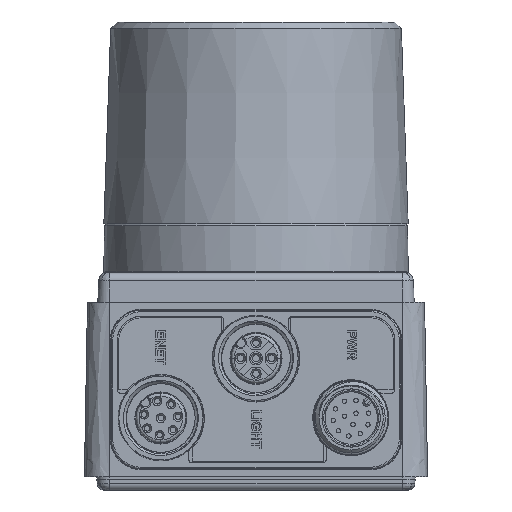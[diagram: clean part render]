
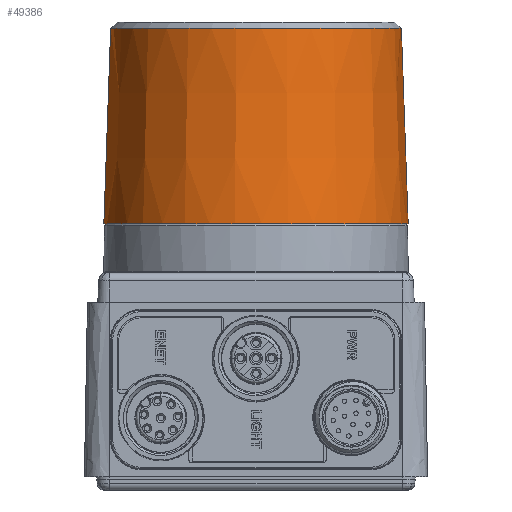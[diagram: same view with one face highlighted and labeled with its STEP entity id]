
A CAD part, front view. The second image highlights one B-rep face of the part: STEP entity #49386.
In plain terms, the highlighted conical face has half-angle 2 degrees and reference radius 24.4 mm.
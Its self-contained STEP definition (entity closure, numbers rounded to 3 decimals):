
#2859 = LINE ( 'NONE', #9899, #2867 ) ;
#2861 = LINE ( 'NONE', #9918, #2871 ) ;
#2867 = VECTOR ( 'NONE', #9911, 1000. ) ;
#2871 = VECTOR ( 'NONE', #9909, 1000. ) ;
#9899 = CARTESIAN_POINT ( 'NONE',  ( 24.383, 10.945, 40.6 ) ) ;
#9909 = DIRECTION ( 'NONE',  ( -0.035, -0.001, -0.999 ) ) ;
#9911 = DIRECTION ( 'NONE',  ( 0.035, 0.001, -0.999 ) ) ;
#9918 = CARTESIAN_POINT ( 'NONE',  ( -24.383, 9.144, 40.6 ) ) ;
#9989 = CARTESIAN_POINT ( 'NONE',  ( 0., 10.045, 71.901 ) ) ;
#9991 = DIRECTION ( 'NONE',  ( 0., 0., -1. ) ) ;
#9993 = DIRECTION ( 'NONE',  ( -0.999, -0.037, 0. ) ) ;
#9997 = CARTESIAN_POINT ( 'NONE',  ( 0., 10.045, 40.6 ) ) ;
#9999 = DIRECTION ( 'NONE',  ( 0., 0., -1. ) ) ;
#10001 = DIRECTION ( 'NONE',  ( -0.999, -0.037, 0. ) ) ;
#11752 = CIRCLE ( 'NONE', #90294, 23.307 ) ;
#11754 = CIRCLE ( 'NONE', #90297, 24.4 ) ;
#37680 = CARTESIAN_POINT ( 'NONE',  ( -23.291, 9.185, 71.901 ) ) ;
#41751 = CARTESIAN_POINT ( 'NONE',  ( -24.383, 9.144, 40.6 ) ) ;
#44353 = CARTESIAN_POINT ( 'NONE',  ( 23.291, 10.905, 71.901 ) ) ;
#45681 = CARTESIAN_POINT ( 'NONE',  ( 24.383, 10.945, 40.6 ) ) ;
#49386 = ADVANCED_FACE ( 'NONE', ( #100442 ), #100446, .T. ) ;
#52319 = DIRECTION ( 'NONE',  ( -0.999, -0.037, 0. ) ) ;
#52564 = DIRECTION ( 'NONE',  ( 0., 0., -1. ) ) ;
#52573 = CARTESIAN_POINT ( 'NONE',  ( 0., 10.045, 40.6 ) ) ;
#69632 = EDGE_CURVE ( 'NONE', #79392, #80266, #2859, .T. ) ;
#69634 = EDGE_CURVE ( 'NONE', #78147, #78600, #2861, .T. ) ;
#69653 = EDGE_CURVE ( 'NONE', #79392, #78147, #11752, .T. ) ;
#69654 = EDGE_CURVE ( 'NONE', #80266, #78600, #11754, .T. ) ;
#72112 = ORIENTED_EDGE ( 'NONE', *, *, #69632, .F. ) ;
#72113 = ORIENTED_EDGE ( 'NONE', *, *, #69653, .T. ) ;
#72114 = ORIENTED_EDGE ( 'NONE', *, *, #69634, .T. ) ;
#72115 = ORIENTED_EDGE ( 'NONE', *, *, #69654, .F. ) ;
#78147 = VERTEX_POINT ( 'NONE', #37680 ) ;
#78600 = VERTEX_POINT ( 'NONE', #41751 ) ;
#79392 = VERTEX_POINT ( 'NONE', #44353 ) ;
#80266 = VERTEX_POINT ( 'NONE', #45681 ) ;
#87655 = AXIS2_PLACEMENT_3D ( 'NONE', #52573, #52564, #52319 ) ;
#90294 = AXIS2_PLACEMENT_3D ( 'NONE', #9989, #9991, #9993 ) ;
#90297 = AXIS2_PLACEMENT_3D ( 'NONE', #9997, #9999, #10001 ) ;
#90549 = EDGE_LOOP ( 'NONE', ( #72112, #72113, #72114, #72115 ) ) ;
#100442 = FACE_OUTER_BOUND ( 'NONE', #90549, .T. ) ;
#100446 = CONICAL_SURFACE ( 'NONE', #87655, 24.4, 0.035 ) ;
